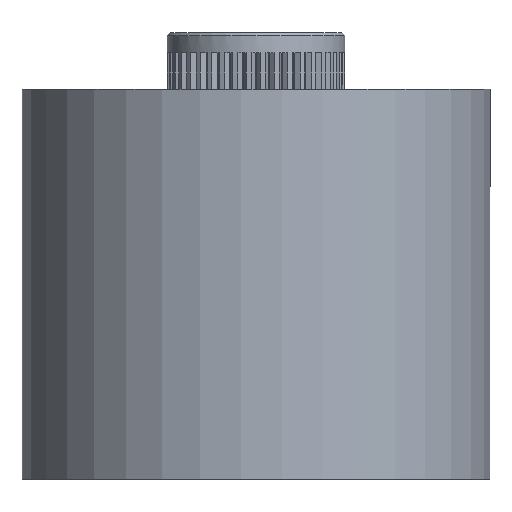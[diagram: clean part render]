
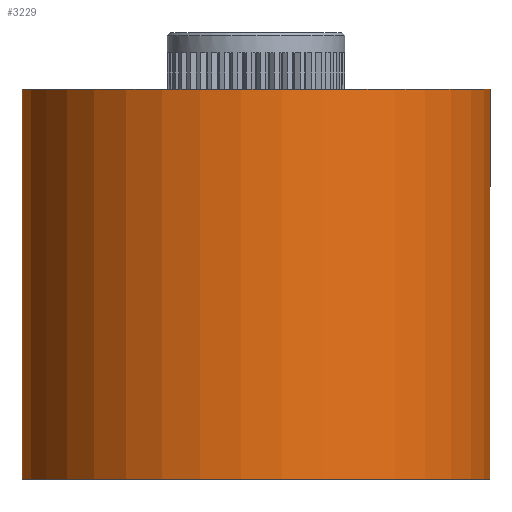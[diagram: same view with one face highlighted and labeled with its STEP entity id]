
A CAD part, front view. The second image highlights one B-rep face of the part: STEP entity #3229.
In plain terms, the highlighted cylindrical face has radius 10.5 mm (diameter 21 mm), a full revolution.
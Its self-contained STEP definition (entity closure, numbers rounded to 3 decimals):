
#2368=CARTESIAN_POINT('',(5.83,8.733,10.856));
#2369=VERTEX_POINT('',#2368);
#2370=CARTESIAN_POINT('',(0.0,0.0,10.856));
#2371=DIRECTION('',(0.0,0.0,-1.0));
#2372=DIRECTION('',(-0.555,-0.832,0.0));
#2373=AXIS2_PLACEMENT_3D('',#2370,#2371,#2372);
#2374=CIRCLE('',#2373,10.5);
#2375=EDGE_CURVE('',#2369,#2369,#2374,.F.);
#3210=CARTESIAN_POINT('',(0.0,0.0,-6.604));
#3211=DIRECTION('',(0.0,0.0,1.0));
#3212=DIRECTION('',(-0.555,-0.832,0.0));
#3213=AXIS2_PLACEMENT_3D('',#3210,#3211,#3212);
#3214=CYLINDRICAL_SURFACE('',#3213,10.5);
#3215=ORIENTED_EDGE('',*,*,#2375,.F.);
#3216=EDGE_LOOP('',(#3215));
#3217=FACE_OUTER_BOUND('',#3216,.T.);
#3218=CARTESIAN_POINT('',(5.83,8.733,-6.604));
#3219=VERTEX_POINT('',#3218);
#3220=CARTESIAN_POINT('',(0.0,0.0,-6.604));
#3221=DIRECTION('',(0.0,0.0,1.0));
#3222=DIRECTION('',(-0.555,-0.832,0.0));
#3223=AXIS2_PLACEMENT_3D('',#3220,#3221,#3222);
#3224=CIRCLE('',#3223,10.5);
#3225=EDGE_CURVE('',#3219,#3219,#3224,.F.);
#3226=ORIENTED_EDGE('',*,*,#3225,.F.);
#3227=EDGE_LOOP('',(#3226));
#3228=FACE_BOUND('',#3227,.T.);
#3229=ADVANCED_FACE('',(#3217,#3228),#3214,.T.);
